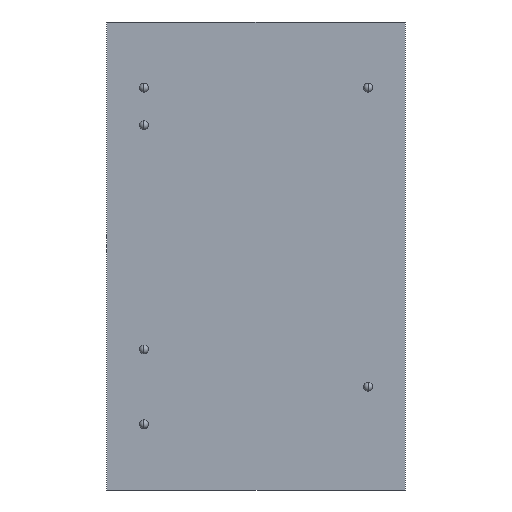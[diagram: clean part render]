
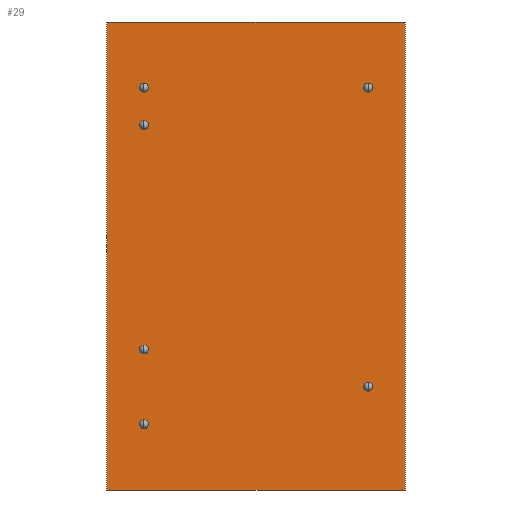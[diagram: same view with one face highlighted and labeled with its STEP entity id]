
A CAD part, front view. The second image highlights one B-rep face of the part: STEP entity #29.
In plain terms, the highlighted planar face has unit normal (0, -1, 0).
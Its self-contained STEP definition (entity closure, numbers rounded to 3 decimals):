
#7 = CIRCLE ( 'NONE', #708, 0.3 ) ;
#17 = DIRECTION ( 'NONE',  ( 0., 0., 1. ) ) ;
#24 = ORIENTED_EDGE ( 'NONE', *, *, #1050, .F. ) ;
#25 = VERTEX_POINT ( 'NONE', #170 ) ;
#28 = VERTEX_POINT ( 'NONE', #944 ) ;
#29 = ADVANCED_FACE ( 'NONE', ( #361, #699, #82, #368, #924, #251, #544 ), #1100, .F. ) ;
#38 = CARTESIAN_POINT ( 'NONE',  ( -7.62, 0., 9.19 ) ) ;
#45 = CARTESIAN_POINT ( 'NONE',  ( -7.62, 0., -6.65 ) ) ;
#56 = EDGE_LOOP ( 'NONE', ( #71, #1031 ) ) ;
#59 = CARTESIAN_POINT ( 'NONE',  ( -7.62, 0., -11.13 ) ) ;
#66 = CIRCLE ( 'NONE', #848, 0.3 ) ;
#69 = CARTESIAN_POINT ( 'NONE',  ( 10.15, 0., 15.9 ) ) ;
#71 = ORIENTED_EDGE ( 'NONE', *, *, #1106, .F. ) ;
#73 = AXIS2_PLACEMENT_3D ( 'NONE', #1030, #516, #530 ) ;
#82 = FACE_BOUND ( 'NONE', #464, .T. ) ;
#85 = AXIS2_PLACEMENT_3D ( 'NONE', #943, #510, #349 ) ;
#87 = DIRECTION ( 'NONE',  ( 0., 0., 1. ) ) ;
#92 = CIRCLE ( 'NONE', #1033, 0.3 ) ;
#107 = CARTESIAN_POINT ( 'NONE',  ( -7.62, 0., -6.35 ) ) ;
#113 = EDGE_LOOP ( 'NONE', ( #1016, #154 ) ) ;
#117 = EDGE_CURVE ( 'NONE', #177, #843, #1009, .T. ) ;
#119 = LINE ( 'NONE', #751, #415 ) ;
#121 = CIRCLE ( 'NONE', #626, 0.3 ) ;
#134 = CARTESIAN_POINT ( 'NONE',  ( 7.62, 0., -8.59 ) ) ;
#140 = EDGE_CURVE ( 'NONE', #303, #1107, #92, .T. ) ;
#154 = ORIENTED_EDGE ( 'NONE', *, *, #884, .F. ) ;
#160 = DIRECTION ( 'NONE',  ( 0., -1., 0. ) ) ;
#170 = CARTESIAN_POINT ( 'NONE',  ( -7.62, 0., 8.59 ) ) ;
#176 = LINE ( 'NONE', #180, #1049 ) ;
#177 = VERTEX_POINT ( 'NONE', #816 ) ;
#180 = CARTESIAN_POINT ( 'NONE',  ( -10.15, 0., -15.9 ) ) ;
#181 = VERTEX_POINT ( 'NONE', #384 ) ;
#183 = DIRECTION ( 'NONE',  ( 0., 0., 1. ) ) ;
#197 = DIRECTION ( 'NONE',  ( 0., -1., 0. ) ) ;
#201 = AXIS2_PLACEMENT_3D ( 'NONE', #770, #160, #341 ) ;
#202 = CARTESIAN_POINT ( 'NONE',  ( -7.62, 0., 8.89 ) ) ;
#217 = DIRECTION ( 'NONE',  ( 0., 0., 1. ) ) ;
#223 = DIRECTION ( 'NONE',  ( 0., -1., 0. ) ) ;
#238 = VERTEX_POINT ( 'NONE', #461 ) ;
#249 = AXIS2_PLACEMENT_3D ( 'NONE', #202, #969, #217 ) ;
#251 = FACE_BOUND ( 'NONE', #1002, .T. ) ;
#262 = VERTEX_POINT ( 'NONE', #38 ) ;
#268 = CARTESIAN_POINT ( 'NONE',  ( -7.62, 0., -11.43 ) ) ;
#302 = CARTESIAN_POINT ( 'NONE',  ( 10.15, 0., -15.9 ) ) ;
#303 = VERTEX_POINT ( 'NONE', #650 ) ;
#320 = EDGE_CURVE ( 'NONE', #1107, #303, #66, .T. ) ;
#323 = CIRCLE ( 'NONE', #702, 0.3 ) ;
#324 = CARTESIAN_POINT ( 'NONE',  ( -7.62, 0., 11.43 ) ) ;
#341 = DIRECTION ( 'NONE',  ( 0., 0., 1. ) ) ;
#344 = ORIENTED_EDGE ( 'NONE', *, *, #579, .F. ) ;
#349 = DIRECTION ( 'NONE',  ( 0., 0., 1. ) ) ;
#353 = DIRECTION ( 'NONE',  ( 0., -1., 0. ) ) ;
#358 = DIRECTION ( 'NONE',  ( -1., 0., 0. ) ) ;
#361 = FACE_BOUND ( 'NONE', #619, .T. ) ;
#368 = FACE_BOUND ( 'NONE', #56, .T. ) ;
#370 = VERTEX_POINT ( 'NONE', #601 ) ;
#378 = CIRCLE ( 'NONE', #661, 0.3 ) ;
#380 = ORIENTED_EDGE ( 'NONE', *, *, #534, .F. ) ;
#384 = CARTESIAN_POINT ( 'NONE',  ( 10.15, 0., -15.9 ) ) ;
#394 = EDGE_LOOP ( 'NONE', ( #686, #477 ) ) ;
#415 = VECTOR ( 'NONE', #769, 1000. ) ;
#423 = EDGE_CURVE ( 'NONE', #1041, #629, #323, .T. ) ;
#438 = CARTESIAN_POINT ( 'NONE',  ( 7.62, 0., 11.43 ) ) ;
#443 = EDGE_CURVE ( 'NONE', #28, #909, #1047, .T. ) ;
#449 = AXIS2_PLACEMENT_3D ( 'NONE', #529, #197, #17 ) ;
#461 = CARTESIAN_POINT ( 'NONE',  ( -10.15, 0., -15.9 ) ) ;
#464 = EDGE_LOOP ( 'NONE', ( #835, #852 ) ) ;
#468 = DIRECTION ( 'NONE',  ( 0., 0., -1. ) ) ;
#477 = ORIENTED_EDGE ( 'NONE', *, *, #871, .F. ) ;
#482 = DIRECTION ( 'NONE',  ( 0., 0., 1. ) ) ;
#487 = DIRECTION ( 'NONE',  ( 0., 0., 1. ) ) ;
#506 = DIRECTION ( 'NONE',  ( 0., 1., 0. ) ) ;
#510 = DIRECTION ( 'NONE',  ( 0., -1., 0. ) ) ;
#516 = DIRECTION ( 'NONE',  ( 0., -1., 0. ) ) ;
#519 = EDGE_CURVE ( 'NONE', #238, #370, #119, .T. ) ;
#529 = CARTESIAN_POINT ( 'NONE',  ( -7.62, 0., -6.35 ) ) ;
#530 = DIRECTION ( 'NONE',  ( 0., 0., 1. ) ) ;
#533 = CARTESIAN_POINT ( 'NONE',  ( -7.62, 0., -11.43 ) ) ;
#534 = EDGE_CURVE ( 'NONE', #909, #28, #817, .T. ) ;
#544 = FACE_BOUND ( 'NONE', #113, .T. ) ;
#546 = DIRECTION ( 'NONE',  ( 0., 0., 1. ) ) ;
#548 = CARTESIAN_POINT ( 'NONE',  ( -7.62, 0., 11.73 ) ) ;
#571 = VERTEX_POINT ( 'NONE', #991 ) ;
#579 = EDGE_CURVE ( 'NONE', #571, #1094, #378, .T. ) ;
#582 = LINE ( 'NONE', #1079, #784 ) ;
#587 = ORIENTED_EDGE ( 'NONE', *, *, #962, .F. ) ;
#601 = CARTESIAN_POINT ( 'NONE',  ( -10.15, 0., 15.9 ) ) ;
#618 = VERTEX_POINT ( 'NONE', #69 ) ;
#619 = EDGE_LOOP ( 'NONE', ( #24, #344 ) ) ;
#626 = AXIS2_PLACEMENT_3D ( 'NONE', #533, #714, #792 ) ;
#629 = VERTEX_POINT ( 'NONE', #744 ) ;
#630 = DIRECTION ( 'NONE',  ( 0., -1., 0. ) ) ;
#636 = CARTESIAN_POINT ( 'NONE',  ( 7.62, 0., 11.73 ) ) ;
#642 = DIRECTION ( 'NONE',  ( 0., 0., 1. ) ) ;
#650 = CARTESIAN_POINT ( 'NONE',  ( 7.62, 0., 11.13 ) ) ;
#652 = CARTESIAN_POINT ( 'NONE',  ( -7.62, 0., 11.43 ) ) ;
#661 = AXIS2_PLACEMENT_3D ( 'NONE', #652, #836, #487 ) ;
#681 = VECTOR ( 'NONE', #468, 1000. ) ;
#686 = ORIENTED_EDGE ( 'NONE', *, *, #117, .F. ) ;
#699 = FACE_OUTER_BOUND ( 'NONE', #777, .T. ) ;
#702 = AXIS2_PLACEMENT_3D ( 'NONE', #268, #630, #546 ) ;
#708 = AXIS2_PLACEMENT_3D ( 'NONE', #324, #734, #482 ) ;
#714 = DIRECTION ( 'NONE',  ( 0., -1., 0. ) ) ;
#730 = ORIENTED_EDGE ( 'NONE', *, *, #1020, .F. ) ;
#734 = DIRECTION ( 'NONE',  ( 0., -1., 0. ) ) ;
#744 = CARTESIAN_POINT ( 'NONE',  ( -7.62, 0., -11.73 ) ) ;
#747 = ORIENTED_EDGE ( 'NONE', *, *, #443, .F. ) ;
#751 = CARTESIAN_POINT ( 'NONE',  ( -10.15, 0., -15.9 ) ) ;
#756 = LINE ( 'NONE', #302, #681 ) ;
#769 = DIRECTION ( 'NONE',  ( 0., 0., 1. ) ) ;
#770 = CARTESIAN_POINT ( 'NONE',  ( 7.62, 0., -8.89 ) ) ;
#777 = EDGE_LOOP ( 'NONE', ( #912, #1104, #587, #730 ) ) ;
#781 = DIRECTION ( 'NONE',  ( 0., -1., 0. ) ) ;
#784 = VECTOR ( 'NONE', #911, 1000. ) ;
#785 = AXIS2_PLACEMENT_3D ( 'NONE', #934, #506, #87 ) ;
#792 = DIRECTION ( 'NONE',  ( 0., 0., 1. ) ) ;
#816 = CARTESIAN_POINT ( 'NONE',  ( -7.62, 0., -6.05 ) ) ;
#817 = CIRCLE ( 'NONE', #85, 0.3 ) ;
#823 = CARTESIAN_POINT ( 'NONE',  ( 7.62, 0., 11.43 ) ) ;
#829 = EDGE_CURVE ( 'NONE', #25, #262, #859, .T. ) ;
#835 = ORIENTED_EDGE ( 'NONE', *, *, #320, .F. ) ;
#836 = DIRECTION ( 'NONE',  ( 0., -1., 0. ) ) ;
#837 = EDGE_CURVE ( 'NONE', #181, #238, #176, .T. ) ;
#843 = VERTEX_POINT ( 'NONE', #45 ) ;
#844 = CIRCLE ( 'NONE', #249, 0.3 ) ;
#848 = AXIS2_PLACEMENT_3D ( 'NONE', #438, #353, #183 ) ;
#852 = ORIENTED_EDGE ( 'NONE', *, *, #140, .F. ) ;
#859 = CIRCLE ( 'NONE', #73, 0.3 ) ;
#871 = EDGE_CURVE ( 'NONE', #843, #177, #921, .T. ) ;
#884 = EDGE_CURVE ( 'NONE', #629, #1041, #121, .T. ) ;
#909 = VERTEX_POINT ( 'NONE', #134 ) ;
#911 = DIRECTION ( 'NONE',  ( 1., 0., 0. ) ) ;
#912 = ORIENTED_EDGE ( 'NONE', *, *, #519, .F. ) ;
#921 = CIRCLE ( 'NONE', #449, 0.3 ) ;
#924 = FACE_BOUND ( 'NONE', #394, .T. ) ;
#934 = CARTESIAN_POINT ( 'NONE',  ( -10.15, 0., 15.9 ) ) ;
#943 = CARTESIAN_POINT ( 'NONE',  ( 7.62, 0., -8.89 ) ) ;
#944 = CARTESIAN_POINT ( 'NONE',  ( 7.62, 0., -9.19 ) ) ;
#962 = EDGE_CURVE ( 'NONE', #618, #181, #756, .T. ) ;
#969 = DIRECTION ( 'NONE',  ( 0., -1., 0. ) ) ;
#972 = AXIS2_PLACEMENT_3D ( 'NONE', #107, #781, #1078 ) ;
#991 = CARTESIAN_POINT ( 'NONE',  ( -7.62, 0., 11.13 ) ) ;
#1002 = EDGE_LOOP ( 'NONE', ( #380, #747 ) ) ;
#1009 = CIRCLE ( 'NONE', #972, 0.3 ) ;
#1016 = ORIENTED_EDGE ( 'NONE', *, *, #423, .F. ) ;
#1020 = EDGE_CURVE ( 'NONE', #370, #618, #582, .T. ) ;
#1030 = CARTESIAN_POINT ( 'NONE',  ( -7.62, 0., 8.89 ) ) ;
#1031 = ORIENTED_EDGE ( 'NONE', *, *, #829, .F. ) ;
#1033 = AXIS2_PLACEMENT_3D ( 'NONE', #823, #223, #642 ) ;
#1041 = VERTEX_POINT ( 'NONE', #59 ) ;
#1047 = CIRCLE ( 'NONE', #201, 0.3 ) ;
#1049 = VECTOR ( 'NONE', #358, 1000. ) ;
#1050 = EDGE_CURVE ( 'NONE', #1094, #571, #7, .T. ) ;
#1078 = DIRECTION ( 'NONE',  ( 0., 0., 1. ) ) ;
#1079 = CARTESIAN_POINT ( 'NONE',  ( -10.15, 0., 15.9 ) ) ;
#1094 = VERTEX_POINT ( 'NONE', #548 ) ;
#1100 = PLANE ( 'NONE',  #785 ) ;
#1104 = ORIENTED_EDGE ( 'NONE', *, *, #837, .F. ) ;
#1106 = EDGE_CURVE ( 'NONE', #262, #25, #844, .T. ) ;
#1107 = VERTEX_POINT ( 'NONE', #636 ) ;
